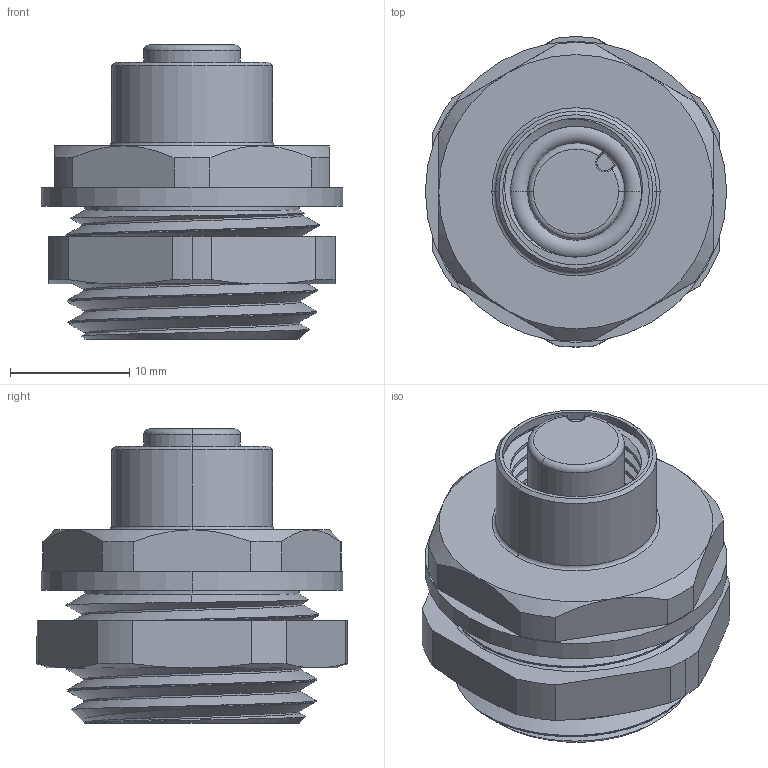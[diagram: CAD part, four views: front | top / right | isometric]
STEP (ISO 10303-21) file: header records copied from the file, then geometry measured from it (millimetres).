
FILE_DESCRIPTION (( 'STEP AP203' ), '1' );
FILE_NAME ('EFKxH-A.step', '2021-04-14T15:37:00', ( '' ), ( '' ), 'SwSTEP 2.0', 'SolidWorks 2019', '' );
FILE_SCHEMA (( 'CONFIG_CONTROL_DESIGN' ));
Length unit declared in the file: millimetre
Products named in the file (1): EFKxH-A
Bounding box: 25.25 x 26 x 24.65 mm (x, y, z)
Volume: 7029.2 mm3; surface area: 4154.3 mm2
Topology: 1 solids, 1 shells, 146 faces, 392 edges, 251 vertices
Faces by surface type: cylinder 49, cone 40, plane 28, torus 15, bspline 14
Entity records: 11292 total; most frequent: CARTESIAN_POINT 7783, ORIENTED_EDGE 784, DIRECTION 651, EDGE_CURVE 392, AXIS2_PLACEMENT_3D 274, VERTEX_POINT 251, EDGE_LOOP 155, FACE_OUTER_BOUND 146
